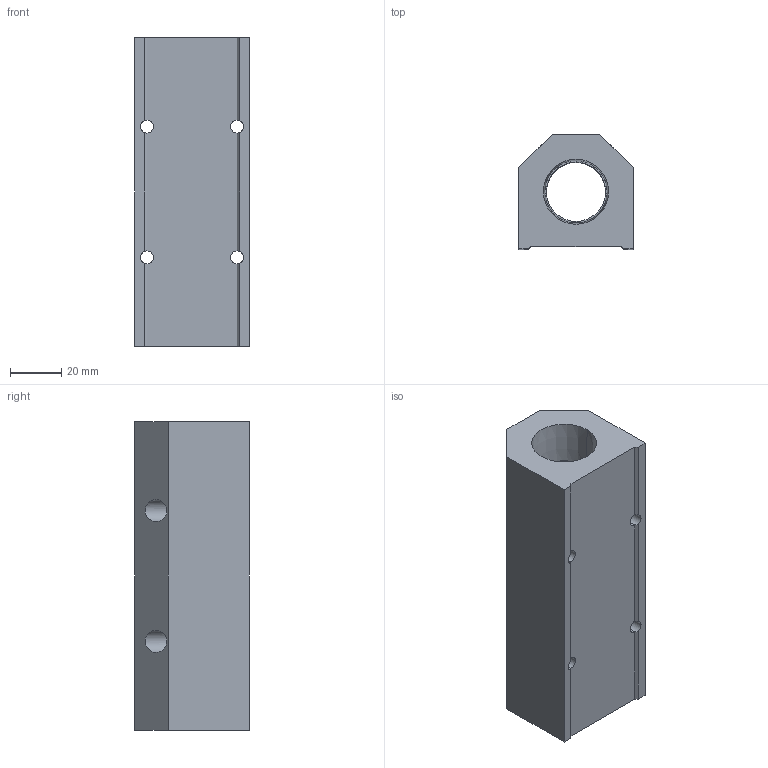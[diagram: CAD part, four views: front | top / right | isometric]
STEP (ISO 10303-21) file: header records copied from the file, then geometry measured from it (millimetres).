
FILE_DESCRIPTION (( 'STEP AP214' ), '1' );
FILE_NAME ('ALM4C-N4N12-120B.step', '2022-02-06T14:10:29', ( '' ), ( '' ), 'SwSTEP 2.0', 'SolidWorks 2020', '' );
FILE_SCHEMA (( 'AUTOMOTIVE_DESIGN' ));
Length unit declared in the file: millimetre
Products named in the file (1): ALM4C-N4N12-120B
Bounding box: 44.5 x 44.5 x 120 mm (x, y, z)
Volume: 151855.8 mm3; surface area: 34139.6 mm2
Topology: 1 solids, 1 shells, 287 faces, 761 edges, 502 vertices
Faces by surface type: plane 199, bspline 46, cylinder 24, cone 18
Entity records: 12553 total; most frequent: CARTESIAN_POINT 5573, ORIENTED_EDGE 1522, DIRECTION 1173, EDGE_CURVE 761, LINE 569, VECTOR 569, VERTEX_POINT 502, EDGE_LOOP 331
